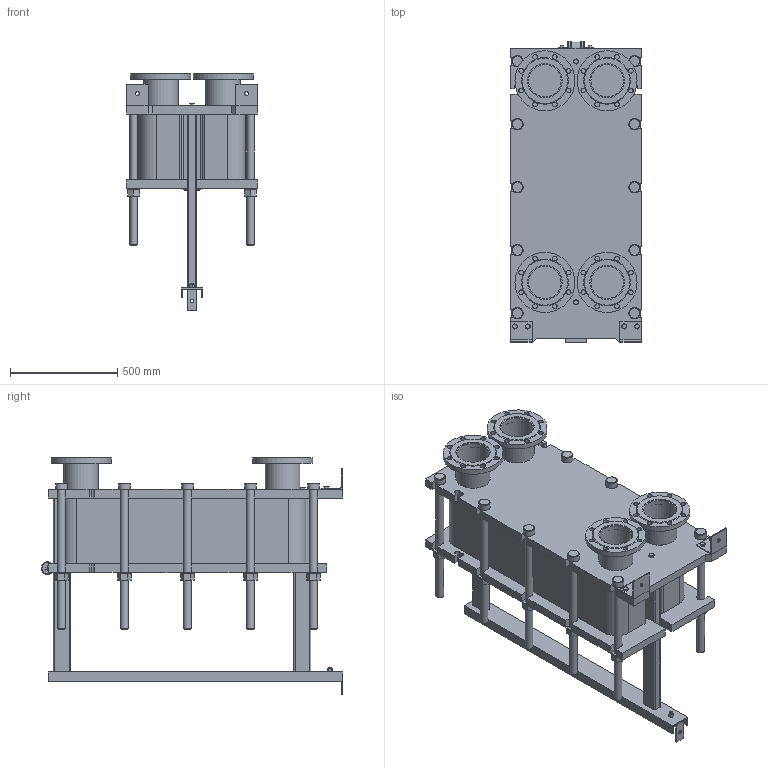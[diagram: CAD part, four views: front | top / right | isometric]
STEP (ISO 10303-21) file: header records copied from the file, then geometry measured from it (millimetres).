
FILE_DESCRIPTION(/* description */ (''),/* implementation_level */ '2;1');
FILE_NAME(/* name */ 'C:\Users\zhuro\Desktop\ENCO\TO\ЭН-041\ЭН-0,5-041-89-1.stp',/* time_stamp */ '2022-06-06T10:57:03+03:00',/* author */ ('zhuro'),/* organization */ (''),/* preprocessor_version */ 'ST-DEVELOPER v18.1',/* originating_system */ 'Autodesk Inventor 2022',/* authorisation */ '');
FILE_SCHEMA (('AUTOMOTIVE_DESIGN { 1 0 10303 214 3 1 1 }'));
Length unit declared in the file: millimetre
Products named in the file (1): ЭН-0,5-041-89-1
Bounding box: 610 x 1406.5 x 1107.5 mm (x, y, z)
Volume: 252396520.2 mm3; surface area: 8781970.1 mm2
Topology: 52 solids, 52 shells, 711 faces, 1696 edges, 1094 vertices
Faces by surface type: plane 487, cylinder 177, cone 41, torus 6
Full cylindrical faces by diameter (mm): 8 x4, 10 x2, 16 x8, 18 x3, 22 x32, 36 x24, 50 x1, 54 x10, 60 x12, 151 x4, 161 x8, 280 x4
Entity records: 22667 total; most frequent: CARTESIAN_POINT 5230, DIRECTION 3644, ORIENTED_EDGE 3392, EDGE_CURVE 1696, AXIS2_PLACEMENT_3D 1272, LINE 1100, VECTOR 1100, VERTEX_POINT 1094
